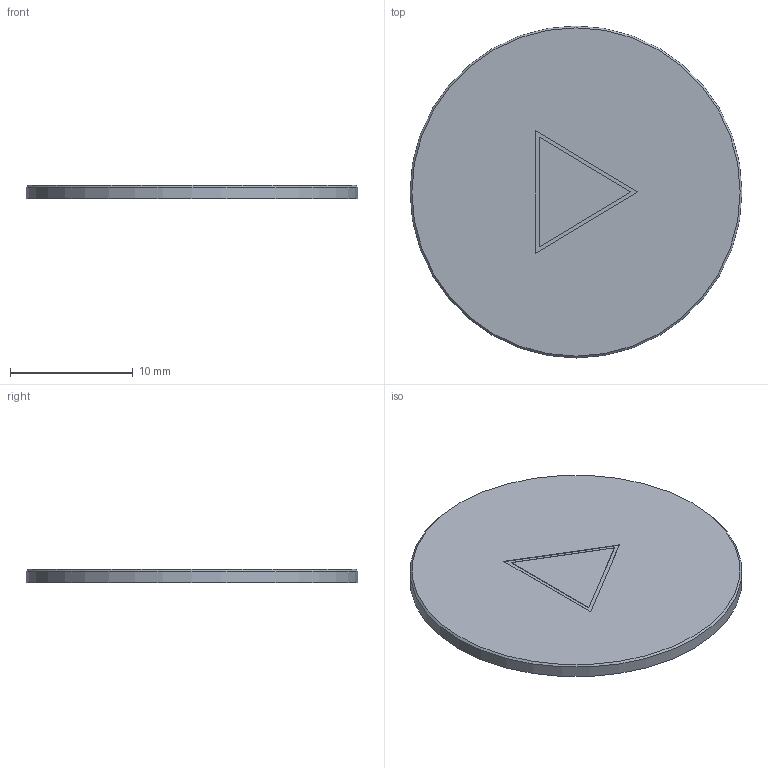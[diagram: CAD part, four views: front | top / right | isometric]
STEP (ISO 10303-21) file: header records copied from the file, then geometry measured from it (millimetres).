
FILE_DESCRIPTION(/* description */ (''),/* implementation_level */ '2;1');
FILE_NAME(/* name */ 'C28_R1_10_Round_Brushed_Steel_Play_Cap.step',/* time_stamp */ '2026-09-10T17:48:30-07:00',/* author */ (''),/* organization */ (''),/* preprocessor_version */ 'ST-DEVELOPER v20.1',/* originating_system */ 'Autodesk Translation Framework v15.8.0.0',/* authorisation */ '');
FILE_SCHEMA (('AUTOMOTIVE_DESIGN { 1 0 10303 214 3 1 1 }'));
Length unit declared in the file: millimetre
Products named in the file (1): 2026-09-10-17-48-30-395
Bounding box: 27 x 27 x 1.1 mm (x, y, z)
Volume: 628.5 mm3; surface area: 1233.2 mm2
Topology: 1 solids, 1 shells, 12 faces, 23 edges, 15 vertices
Faces by surface type: plane 10, cone 1, cylinder 1
Full cylindrical faces by diameter (mm): 27 x1
Entity records: 335 total; most frequent: DIRECTION 52, CARTESIAN_POINT 51, ORIENTED_EDGE 46, EDGE_CURVE 23, LINE 20, VECTOR 20, AXIS2_PLACEMENT_3D 16, VERTEX_POINT 15
